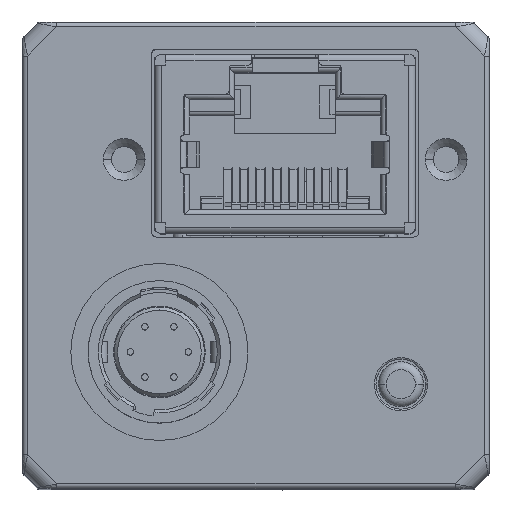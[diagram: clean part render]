
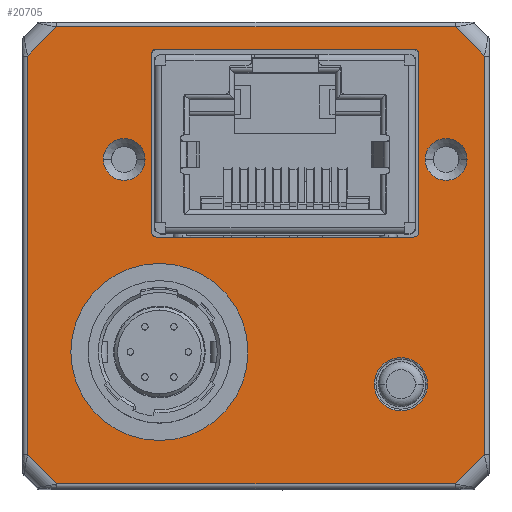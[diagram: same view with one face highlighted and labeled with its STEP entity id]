
A CAD part, top view. The second image highlights one B-rep face of the part: STEP entity #20705.
In plain terms, the highlighted planar face has unit normal (0, 0, 1).
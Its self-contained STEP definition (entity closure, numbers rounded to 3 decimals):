
#205=DIRECTION('',(-0.707,-0.707,0.));
#206=VECTOR('',#205,2.566);
#207=CARTESIAN_POINT('',(14.2,-12.386,36.5));
#208=LINE('',#207,#206);
#209=DIRECTION('',(-0.707,0.707,0.));
#210=VECTOR('',#209,2.566);
#211=CARTESIAN_POINT('',(-12.386,-14.2,36.5));
#212=LINE('',#211,#210);
#213=DIRECTION('',(0.707,0.707,0.));
#214=VECTOR('',#213,2.566);
#215=CARTESIAN_POINT('',(-14.2,12.386,36.5));
#216=LINE('',#215,#214);
#217=DIRECTION('',(0.707,-0.707,0.));
#218=VECTOR('',#217,2.566);
#219=CARTESIAN_POINT('',(12.386,14.2,36.5));
#220=LINE('',#219,#218);
#221=CARTESIAN_POINT('',(-6.,-6.,36.5));
#222=DIRECTION('',(0.,0.,1.));
#223=DIRECTION('',(1.,0.,0.));
#224=AXIS2_PLACEMENT_3D('',#221,#222,#223);
#226=CARTESIAN_POINT('',(-6.,-6.,36.5));
#227=DIRECTION('',(0.,0.,1.));
#228=DIRECTION('',(-1.,0.,0.));
#229=AXIS2_PLACEMENT_3D('',#226,#227,#228);
#231=CARTESIAN_POINT('',(-8.19,5.965,36.5));
#232=DIRECTION('',(0.,0.,1.));
#233=DIRECTION('',(-1.,0.,0.));
#234=AXIS2_PLACEMENT_3D('',#231,#232,#233);
#236=CARTESIAN_POINT('',(-8.19,5.965,36.5));
#237=DIRECTION('',(0.,0.,1.));
#238=DIRECTION('',(0.,-1.,0.));
#239=AXIS2_PLACEMENT_3D('',#236,#237,#238);
#241=CARTESIAN_POINT('',(-8.19,5.965,36.5));
#242=DIRECTION('',(0.,0.,1.));
#243=DIRECTION('',(1.,0.,0.));
#244=AXIS2_PLACEMENT_3D('',#241,#242,#243);
#246=CARTESIAN_POINT('',(-8.19,5.965,36.5));
#247=DIRECTION('',(0.,0.,1.));
#248=DIRECTION('',(0.,1.,0.));
#249=AXIS2_PLACEMENT_3D('',#246,#247,#248);
#251=CARTESIAN_POINT('',(11.81,5.965,36.5));
#252=DIRECTION('',(0.,0.,1.));
#253=DIRECTION('',(-1.,0.,0.));
#254=AXIS2_PLACEMENT_3D('',#251,#252,#253);
#256=CARTESIAN_POINT('',(11.81,5.965,36.5));
#257=DIRECTION('',(0.,0.,1.));
#258=DIRECTION('',(0.,-1.,0.));
#259=AXIS2_PLACEMENT_3D('',#256,#257,#258);
#261=CARTESIAN_POINT('',(11.81,5.965,36.5));
#262=DIRECTION('',(0.,0.,1.));
#263=DIRECTION('',(1.,0.,0.));
#264=AXIS2_PLACEMENT_3D('',#261,#262,#263);
#266=CARTESIAN_POINT('',(11.81,5.965,36.5));
#267=DIRECTION('',(0.,0.,1.));
#268=DIRECTION('',(0.,1.,0.));
#269=AXIS2_PLACEMENT_3D('',#266,#267,#268);
#271=CARTESIAN_POINT('',(-6.189,1.441,36.5));
#272=DIRECTION('',(0.,0.,1.));
#273=DIRECTION('',(-1.,0.,0.));
#274=AXIS2_PLACEMENT_3D('',#271,#272,#273);
#276=DIRECTION('',(1.,0.,0.));
#277=VECTOR('',#276,15.997);
#278=CARTESIAN_POINT('',(-6.189,1.141,36.5));
#279=LINE('',#278,#277);
#280=CARTESIAN_POINT('',(9.809,1.441,36.5));
#281=DIRECTION('',(0.,0.,1.));
#282=DIRECTION('',(0.,-1.,0.));
#283=AXIS2_PLACEMENT_3D('',#280,#281,#282);
#285=CARTESIAN_POINT('',(9.809,12.509,36.5));
#286=DIRECTION('',(0.,0.,1.));
#287=DIRECTION('',(1.,0.,0.));
#288=AXIS2_PLACEMENT_3D('',#285,#286,#287);
#290=CARTESIAN_POINT('',(-6.189,12.509,36.5));
#291=DIRECTION('',(0.,0.,1.));
#292=DIRECTION('',(0.,1.,0.));
#293=AXIS2_PLACEMENT_3D('',#290,#291,#292);
#295=CARTESIAN_POINT('',(9.,-8.,36.5));
#296=DIRECTION('',(0.,0.,1.));
#297=DIRECTION('',(-1.,0.,0.));
#298=AXIS2_PLACEMENT_3D('',#295,#296,#297);
#300=CARTESIAN_POINT('',(9.,-8.,36.5));
#301=DIRECTION('',(0.,0.,1.));
#302=DIRECTION('',(1.,0.,0.));
#303=AXIS2_PLACEMENT_3D('',#300,#301,#302);
#305=DIRECTION('',(0.,1.,0.));
#306=VECTOR('',#305,24.772);
#307=CARTESIAN_POINT('',(14.2,-12.386,36.5));
#308=LINE('',#307,#306);
#385=DIRECTION('',(-1.,0.,0.));
#386=VECTOR('',#385,24.772);
#387=CARTESIAN_POINT('',(12.386,14.2,36.5));
#388=LINE('',#387,#386);
#414=DIRECTION('',(0.,-1.,0.));
#415=VECTOR('',#414,24.772);
#416=CARTESIAN_POINT('',(-14.2,12.386,36.5));
#417=LINE('',#416,#415);
#448=DIRECTION('',(1.,0.,0.));
#449=VECTOR('',#448,24.772);
#450=CARTESIAN_POINT('',(-12.386,-14.2,36.5));
#451=LINE('',#450,#449);
#3473=DIRECTION('',(0.,1.,0.));
#3474=VECTOR('',#3473,11.067);
#3475=CARTESIAN_POINT('',(-6.489,1.441,36.5));
#3476=LINE('',#3475,#3474);
#3481=DIRECTION('',(1.,0.,0.));
#3482=VECTOR('',#3481,15.997);
#3483=CARTESIAN_POINT('',(-6.189,12.809,36.5));
#3484=LINE('',#3483,#3482);
#3493=DIRECTION('',(0.,-1.,0.));
#3494=VECTOR('',#3493,11.067);
#3495=CARTESIAN_POINT('',(10.109,12.509,36.5));
#3496=LINE('',#3495,#3494);
#15832=CARTESIAN_POINT('',(14.2,-12.386,36.5));
#15833=CARTESIAN_POINT('',(12.386,-14.2,36.5));
#15834=VERTEX_POINT('',#15832);
#15835=VERTEX_POINT('',#15833);
#15836=CARTESIAN_POINT('',(-12.386,-14.2,36.5));
#15837=CARTESIAN_POINT('',(-14.2,-12.386,36.5));
#15838=VERTEX_POINT('',#15836);
#15839=VERTEX_POINT('',#15837);
#15840=CARTESIAN_POINT('',(-14.2,12.386,36.5));
#15841=CARTESIAN_POINT('',(-12.386,14.2,36.5));
#15842=VERTEX_POINT('',#15840);
#15843=VERTEX_POINT('',#15841);
#15844=CARTESIAN_POINT('',(12.386,14.2,36.5));
#15845=CARTESIAN_POINT('',(14.2,12.386,36.5));
#15846=VERTEX_POINT('',#15844);
#15847=VERTEX_POINT('',#15845);
#15848=CARTESIAN_POINT('',(-0.5,-6.,36.5));
#15849=CARTESIAN_POINT('',(-11.5,-6.,36.5));
#15850=VERTEX_POINT('',#15848);
#15851=VERTEX_POINT('',#15849);
#15852=CARTESIAN_POINT('',(-9.49,5.965,36.5));
#15853=CARTESIAN_POINT('',(-8.19,4.665,36.5));
#15854=VERTEX_POINT('',#15852);
#15855=VERTEX_POINT('',#15853);
#15856=CARTESIAN_POINT('',(-6.89,5.965,36.5));
#15857=VERTEX_POINT('',#15856);
#15858=CARTESIAN_POINT('',(-8.19,7.265,36.5));
#15859=VERTEX_POINT('',#15858);
#15860=CARTESIAN_POINT('',(10.51,5.965,36.5));
#15861=CARTESIAN_POINT('',(11.81,4.665,36.5));
#15862=VERTEX_POINT('',#15860);
#15863=VERTEX_POINT('',#15861);
#15864=CARTESIAN_POINT('',(13.11,5.965,36.5));
#15865=VERTEX_POINT('',#15864);
#15866=CARTESIAN_POINT('',(11.81,7.265,36.5));
#15867=VERTEX_POINT('',#15866);
#15868=CARTESIAN_POINT('',(-6.489,1.441,36.5));
#15869=CARTESIAN_POINT('',(-6.189,1.141,36.5));
#15870=VERTEX_POINT('',#15868);
#15871=VERTEX_POINT('',#15869);
#15872=CARTESIAN_POINT('',(9.809,1.141,36.5));
#15873=VERTEX_POINT('',#15872);
#15874=CARTESIAN_POINT('',(10.109,1.441,36.5));
#15875=VERTEX_POINT('',#15874);
#15876=CARTESIAN_POINT('',(10.109,12.509,36.5));
#15877=CARTESIAN_POINT('',(9.809,12.809,36.5));
#15878=VERTEX_POINT('',#15876);
#15879=VERTEX_POINT('',#15877);
#15880=CARTESIAN_POINT('',(-6.189,12.809,36.5));
#15881=CARTESIAN_POINT('',(-6.489,12.509,36.5));
#15882=VERTEX_POINT('',#15880);
#15883=VERTEX_POINT('',#15881);
#15884=CARTESIAN_POINT('',(7.35,-8.,36.5));
#15885=CARTESIAN_POINT('',(10.65,-8.,36.5));
#15886=VERTEX_POINT('',#15884);
#15887=VERTEX_POINT('',#15885);
#20633=CARTESIAN_POINT('',(0.,0.,36.5));
#20634=DIRECTION('',(0.,0.,1.));
#20635=DIRECTION('',(1.,0.,0.));
#20636=AXIS2_PLACEMENT_3D('',#20633,#20634,#20635);
#20637=PLANE('',#20636);
#20639=ORIENTED_EDGE('',*,*,#20638,.F.);
#20641=ORIENTED_EDGE('',*,*,#20640,.T.);
#20643=ORIENTED_EDGE('',*,*,#20642,.F.);
#20645=ORIENTED_EDGE('',*,*,#20644,.T.);
#20647=ORIENTED_EDGE('',*,*,#20646,.F.);
#20649=ORIENTED_EDGE('',*,*,#20648,.T.);
#20651=ORIENTED_EDGE('',*,*,#20650,.F.);
#20653=ORIENTED_EDGE('',*,*,#20652,.T.);
#20654=EDGE_LOOP('',(#20639,#20641,#20643,#20645,#20647,#20649,#20651,#20653));
#20655=FACE_OUTER_BOUND('',#20654,.F.);
#20657=ORIENTED_EDGE('',*,*,#20656,.T.);
#20659=ORIENTED_EDGE('',*,*,#20658,.T.);
#20660=EDGE_LOOP('',(#20657,#20659));
#20661=FACE_BOUND('',#20660,.F.);
#20663=ORIENTED_EDGE('',*,*,#20662,.T.);
#20665=ORIENTED_EDGE('',*,*,#20664,.T.);
#20667=ORIENTED_EDGE('',*,*,#20666,.T.);
#20669=ORIENTED_EDGE('',*,*,#20668,.T.);
#20670=EDGE_LOOP('',(#20663,#20665,#20667,#20669));
#20671=FACE_BOUND('',#20670,.F.);
#20673=ORIENTED_EDGE('',*,*,#20672,.T.);
#20675=ORIENTED_EDGE('',*,*,#20674,.T.);
#20677=ORIENTED_EDGE('',*,*,#20676,.T.);
#20679=ORIENTED_EDGE('',*,*,#20678,.T.);
#20680=EDGE_LOOP('',(#20673,#20675,#20677,#20679));
#20681=FACE_BOUND('',#20680,.F.);
#20683=ORIENTED_EDGE('',*,*,#20682,.F.);
#20685=ORIENTED_EDGE('',*,*,#20684,.T.);
#20686=ORIENTED_EDGE('',*,*,#20511,.T.);
#20688=ORIENTED_EDGE('',*,*,#20687,.T.);
#20690=ORIENTED_EDGE('',*,*,#20689,.F.);
#20692=ORIENTED_EDGE('',*,*,#20691,.T.);
#20694=ORIENTED_EDGE('',*,*,#20693,.F.);
#20696=ORIENTED_EDGE('',*,*,#20695,.T.);
#20697=EDGE_LOOP('',(#20683,#20685,#20686,#20688,#20690,#20692,#20694,#20696));
#20698=FACE_BOUND('',#20697,.F.);
#20700=ORIENTED_EDGE('',*,*,#20699,.T.);
#20702=ORIENTED_EDGE('',*,*,#20701,.T.);
#20703=EDGE_LOOP('',(#20700,#20702));
#20704=FACE_BOUND('',#20703,.F.);
#20705=ADVANCED_FACE('',(#20655,#20661,#20671,#20681,#20698,#20704),#20637,.T.);
#225=CIRCLE('',#224,5.5);
#230=CIRCLE('',#229,5.5);
#235=CIRCLE('',#234,1.3);
#240=CIRCLE('',#239,1.3);
#245=CIRCLE('',#244,1.3);
#250=CIRCLE('',#249,1.3);
#255=CIRCLE('',#254,1.3);
#260=CIRCLE('',#259,1.3);
#265=CIRCLE('',#264,1.3);
#270=CIRCLE('',#269,1.3);
#275=CIRCLE('',#274,0.3);
#284=CIRCLE('',#283,0.3);
#289=CIRCLE('',#288,0.3);
#294=CIRCLE('',#293,0.3);
#299=CIRCLE('',#298,1.65);
#304=CIRCLE('',#303,1.65);
#20511=EDGE_CURVE('',#15871,#15873,#279,.T.);
#20638=EDGE_CURVE('',#15834,#15847,#308,.T.);
#20640=EDGE_CURVE('',#15834,#15835,#208,.T.);
#20642=EDGE_CURVE('',#15838,#15835,#451,.T.);
#20644=EDGE_CURVE('',#15838,#15839,#212,.T.);
#20646=EDGE_CURVE('',#15842,#15839,#417,.T.);
#20648=EDGE_CURVE('',#15842,#15843,#216,.T.);
#20650=EDGE_CURVE('',#15846,#15843,#388,.T.);
#20652=EDGE_CURVE('',#15846,#15847,#220,.T.);
#20656=EDGE_CURVE('',#15850,#15851,#225,.T.);
#20658=EDGE_CURVE('',#15851,#15850,#230,.T.);
#20662=EDGE_CURVE('',#15854,#15855,#235,.T.);
#20664=EDGE_CURVE('',#15855,#15857,#240,.T.);
#20666=EDGE_CURVE('',#15857,#15859,#245,.T.);
#20668=EDGE_CURVE('',#15859,#15854,#250,.T.);
#20672=EDGE_CURVE('',#15862,#15863,#255,.T.);
#20674=EDGE_CURVE('',#15863,#15865,#260,.T.);
#20676=EDGE_CURVE('',#15865,#15867,#265,.T.);
#20678=EDGE_CURVE('',#15867,#15862,#270,.T.);
#20682=EDGE_CURVE('',#15870,#15883,#3476,.T.);
#20684=EDGE_CURVE('',#15870,#15871,#275,.T.);
#20687=EDGE_CURVE('',#15873,#15875,#284,.T.);
#20689=EDGE_CURVE('',#15878,#15875,#3496,.T.);
#20691=EDGE_CURVE('',#15878,#15879,#289,.T.);
#20693=EDGE_CURVE('',#15882,#15879,#3484,.T.);
#20695=EDGE_CURVE('',#15882,#15883,#294,.T.);
#20699=EDGE_CURVE('',#15886,#15887,#299,.T.);
#20701=EDGE_CURVE('',#15887,#15886,#304,.T.);
